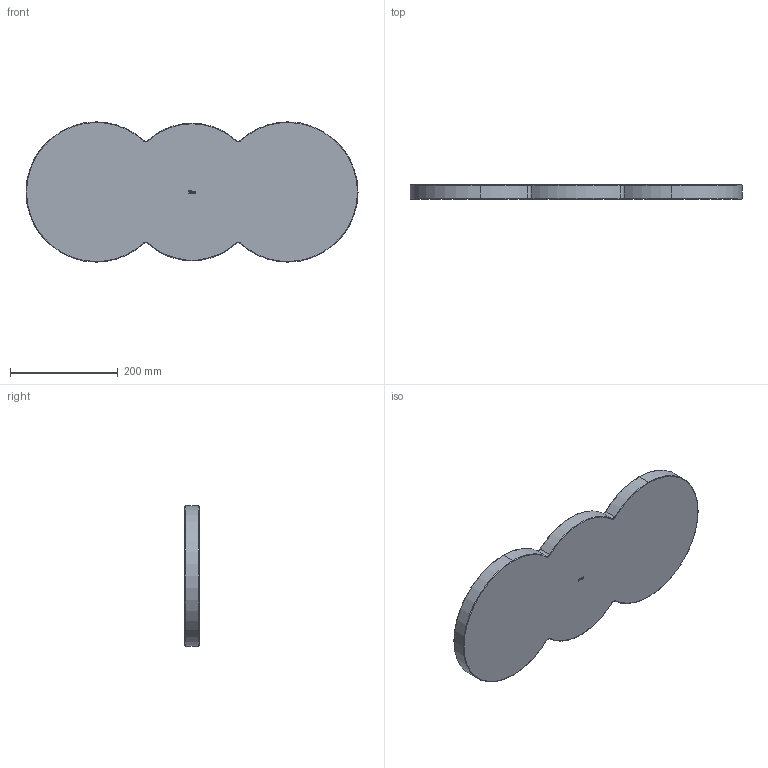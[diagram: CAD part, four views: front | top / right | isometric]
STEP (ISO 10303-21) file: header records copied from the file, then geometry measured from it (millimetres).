
FILE_DESCRIPTION (( 'STEP AP203' ), '1' );
FILE_NAME ('GINCANA FRUIT TRAYS 2.STEP', '2023-06-29T09:02:10', ( '' ), ( '' ), 'SwSTEP 2.0', 'SolidWorks 2023', '' );
FILE_SCHEMA (( 'CONFIG_CONTROL_DESIGN' ));
Length unit declared in the file: millimetre
Products named in the file (1): GINCANA FRUIT TRAYS 2
Bounding box: 615.44 x 26 x 260 mm (x, y, z)
Volume: 2059273.5 mm3; surface area: 351307 mm2
Topology: 1 solids, 1 shells, 272 faces, 633 edges, 371 vertices
Faces by surface type: torus 119, bspline 58, plane 52, cylinder 43
Entity records: 11544 total; most frequent: CARTESIAN_POINT 5535, ORIENTED_EDGE 1262, DIRECTION 1253, EDGE_CURVE 631, AXIS2_PLACEMENT_3D 537, VERTEX_POINT 371, CIRCLE 322, EDGE_LOOP 282
